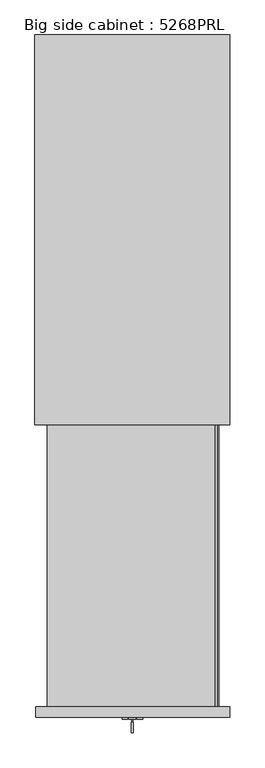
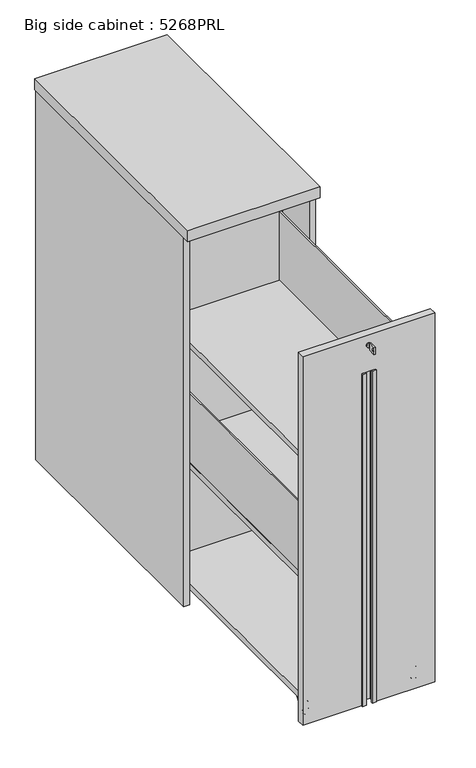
"""IFC4 building model written with IfcOpenShell, lengths in millimetres: furniture geometry, Big side cabinet : 5268PRL."""

from ifc_helpers import new_model, si_unit, point, frame, frame_2d, origin, origin_with_axes, place, context, project, spatial, polyline, circle_curve, ellipse_curve, trimmed, segment, composite_curve, outline, extrude, source, transform, mapped, element, save
from ifc_brep_helpers import plane_surface, cylinder_surface, revolved_surface, advanced_brep


def big_side_cabinet_5268prl_ba8d7ef6(model_context):
    return source(origin(), model_context, "Body", "SolidModel", [
        extrude(outline(polyline([(1.5783188, 20.1617145), (1.5783188, 10.1617145), (-8.4216812, 10.1617145), (-8.4216812, 20.1617145), (1.5783188, 20.1617145)])), origin_with_axes(), (0.0, 0.0, 1.0), 10.0),
        extrude(outline(polyline([(180.5000002, 798.0), (198.5, 798.0), (198.5, 22.9999769), (180.5000002, 22.9999769), (180.5000002, 798.0)])), frame((0.0, 0.0, 5.0), z_axis=(0.0, 0.0, 1.0), x_axis=(1.0, 0.0, 0.0)), (0.0, 0.0, 1.0), 1180.0),
        extrude(outline(polyline([(-180.5000002, 778.4999997), (-180.5000002, 790.9999997), (180.5000002, 790.9999997), (180.5000002, 778.4999997), (-180.5000002, 778.4999997)])), frame((0.0, 0.0, 5.0), z_axis=(0.0, 0.0, 1.0), x_axis=(1.0, 0.0, 0.0)), (0.0, 0.0, 1.0), 1180.0),
        extrude(outline(polyline([(-180.5000002, 798.0), (-180.5000002, 22.9999769), (-198.5, 22.9999769), (-198.5, 798.0), (-180.5000002, 798.0)])), frame((0.0, 0.0, 5.0), z_axis=(0.0, 0.0, 1.0), x_axis=(1.0, 0.0, 0.0)), (0.0, 0.0, 1.0), 1180.0),
        extrude(outline(polyline([(180.5000002, 70.0000151), (-180.5000002, 70.0000151), (-180.5000002, 738.5000021), (180.5000002, 738.5000021), (180.5000002, 70.0000151)])), frame((0.0, 0.0, 20.0583505), z_axis=(0.0, 0.0, 1.0), x_axis=(1.0, 0.0, 0.0)), (0.0, 0.0, 1.0), 17.9999982),
        extrude(outline(polyline([(200.0, 0.0), (-200.0, 0.0), (-200.0, 800.0), (200.0, 800.0), (200.0, 0.0)])), frame((0.0, 0.0, 1185.0), z_axis=(0.0, 0.0, 1.0), x_axis=(1.0, 0.0, 0.0)), (0.0, 0.0, 1.0), 35.0),
        extrude(outline(composite_curve([segment(trimmed(circle_curve(frame_2d((-160.5000002, 706.0000021)), 20.0), [point((-180.5000002, 706.0000021))], [point((-140.5000002, 706.0000021))], False, "CARTESIAN"), True, "CONTINUOUS"), segment(trimmed(circle_curve(frame_2d((-160.5000002, 706.0000021)), 20.0), [point((-140.5000002, 706.0000021))], [point((-180.5000002, 706.0000021))], False, "CARTESIAN"), True, "CONTINUOUS")], self_intersect=False)), origin_with_axes(), (0.0, 0.0, 1.0), 19.0539492),
        extrude(outline(composite_curve([segment(trimmed(circle_curve(frame_2d((-160.5000002, 98.9999918)), 20.0), [point((-180.5000002, 98.9999918))], [point((-140.5000002, 98.9999918))], False, "CARTESIAN"), True, "CONTINUOUS"), segment(trimmed(circle_curve(frame_2d((-160.5000002, 98.9999918)), 20.0), [point((-140.5000002, 98.9999918))], [point((-180.5000002, 98.9999918))], False, "CARTESIAN"), True, "CONTINUOUS")], self_intersect=False)), origin_with_axes(), (0.0, 0.0, 1.0), 19.0539492),
        extrude(outline(composite_curve([segment(trimmed(circle_curve(frame_2d((160.5000002, 706.0000021)), 20.0), [point((140.5000002, 706.0000021))], [point((180.5000002, 706.0000021))], False, "CARTESIAN"), True, "CONTINUOUS"), segment(trimmed(circle_curve(frame_2d((160.5000002, 706.0000021)), 20.0), [point((180.5000002, 706.0000021))], [point((140.5000002, 706.0000021))], False, "CARTESIAN"), True, "CONTINUOUS")], self_intersect=False)), origin_with_axes(), (0.0, 0.0, 1.0), 19.0539492),
        extrude(outline(composite_curve([segment(trimmed(circle_curve(frame_2d((160.5000002, 98.9999918)), 20.0), [point((140.5000002, 98.9999918))], [point((180.5000002, 98.9999918))], False, "CARTESIAN"), True, "CONTINUOUS"), segment(trimmed(circle_curve(frame_2d((160.5000002, 98.9999918)), 20.0), [point((180.5000002, 98.9999918))], [point((140.5000002, 98.9999918))], False, "CARTESIAN"), True, "CONTINUOUS")], self_intersect=False)), origin_with_axes(), (0.0, 0.0, 1.0), 19.0539492),
        advanced_brep(
        [(155.997354, -548.0000393, 10.5), (158.25, -548.0000393, 12.752646), (158.25, -548.0000393, 29.247354), (155.997354, -548.0000393, 31.5), (155.997354, -548.0000393, 3.0456405), (155.997354, -548.0000393, 38.9543595), (159.0429945, -548.0000393, 0.0), (159.0429945, -548.0000393, 42.0), (162.5, -548.0000393, 0.0), (162.5, -548.0000393, 42.0), (162.5, -548.0000393, 16.75), (162.5, -548.0000393, 25.25), (158.25, -548.0000393, 16.75), (158.25, -548.0000393, 25.25)],
        [
            (0, 1),
            (1, 2, circle_curve(frame((158.25, -548.0000393, 21.0), z_axis=(1.0, 0.0, 0.0), x_axis=(0.0, 0.0, 1.0)), 8.247354)),
            (2, 3),
            (3, 0, circle_curve(frame((155.997354, -548.0000393, 21.0), z_axis=(-1.0, 0.0, 0.0), x_axis=(0.0, 0.0, 1.0)), 10.5)),
            (2, 1, circle_curve(frame((158.25, -548.0000393, 21.0), z_axis=(1.0, 0.0, 0.0), x_axis=(0.0, 0.0, 1.0)), 8.247354)),
            (0, 3, circle_curve(frame((155.997354, -548.0000393, 21.0), z_axis=(-1.0, 0.0, 0.0), x_axis=(0.0, 0.0, 1.0)), 10.5)),
            (4, 0),
            (3, 5),
            (5, 4, circle_curve(frame((155.997354, -548.0000393, 21.0), z_axis=(-1.0, 0.0, 0.0), x_axis=(0.0, 0.0, 1.0)), 17.9543595)),
            (4, 5, circle_curve(frame((155.997354, -548.0000393, 21.0), z_axis=(-1.0, 0.0, 0.0), x_axis=(0.0, 0.0, 1.0)), 17.9543595)),
            (6, 4, circle_curve(frame((159.0429945, -548.0000393, 3.0456405), z_axis=(0.0, 1.0, 0.0), x_axis=(-1.0, 0.0, 0.0)), 3.0456405)),
            (5, 7, circle_curve(frame((159.0429945, -548.0000393, 38.9543595), z_axis=(0.0, 1.0, 0.0), x_axis=(-1.0, 0.0, 0.0)), 3.0456405)),
            (7, 6, circle_curve(frame((159.0429945, -548.0000393, 21.0), z_axis=(-1.0, 0.0, 0.0), x_axis=(0.0, 0.0, 1.0)), 21.0)),
            (6, 7, circle_curve(frame((159.0429945, -548.0000393, 21.0), z_axis=(-1.0, 0.0, 0.0), x_axis=(0.0, 0.0, 1.0)), 21.0)),
            (8, 6),
            (7, 9),
            (9, 8, circle_curve(frame((162.5, -548.0000393, 21.0), z_axis=(-1.0, 0.0, 0.0), x_axis=(0.0, 0.0, 1.0)), 21.0)),
            (8, 9, circle_curve(frame((162.5, -548.0000393, 21.0), z_axis=(-1.0, 0.0, 0.0), x_axis=(0.0, 0.0, 1.0)), 21.0)),
            (10, 8),
            (9, 11),
            (11, 10, circle_curve(frame((162.5, -548.0000393, 21.0), z_axis=(-1.0, 0.0, 0.0), x_axis=(0.0, 0.0, 1.0)), 4.25)),
            (10, 11, circle_curve(frame((162.5, -548.0000393, 21.0), z_axis=(-1.0, 0.0, 0.0), x_axis=(0.0, 0.0, 1.0)), 4.25)),
            (12, 10),
            (11, 13),
            (13, 12, circle_curve(frame((158.25, -548.0000393, 21.0), z_axis=(-1.0, 0.0, 0.0), x_axis=(0.0, 0.0, 1.0)), 4.25)),
            (12, 13, circle_curve(frame((158.25, -548.0000393, 21.0), z_axis=(-1.0, 0.0, 0.0), x_axis=(0.0, 0.0, 1.0)), 4.25)),
            (1, 12),
            (13, 2),
        ],
        [
            revolved_surface(polyline([(158.25, -548.0000393, 29.247354), (155.997354, -548.0000393, 31.5)]), (135.5019942, -548.0000393, 21.0), (1.0, 0.0, 0.0)),
            plane_surface(frame((155.997354, -548.0000393, 21.0), z_axis=(-1.0, 0.0, 0.0), x_axis=(0.0, 0.0, 1.0))),
            revolved_surface(trimmed(ellipse_curve(frame((159.0429945, -548.0000393, 38.9543595), z_axis=(0.0, 1.0, 0.0), x_axis=(-1.0, 0.0, 0.0)), 3.0456405, 3.0456405), [point((155.997354, -548.0000393, 38.9543595))], [point((159.0429945, -548.0000393, 42.0))], True, "CARTESIAN"), (135.5019942, -548.0000393, 21.0), (1.0, 0.0, 0.0)),
            cylinder_surface(frame((135.5019942, -548.0000393, 21.0), z_axis=(1.0, 0.0, 0.0), x_axis=(0.0, 0.0, 1.0)), 21.0),
            plane_surface(frame((162.5, -548.0000393, 21.0), z_axis=(1.0, 0.0, 0.0), x_axis=(0.0, 0.0, 1.0))),
            revolved_surface(polyline([(162.5, -548.0000393, 25.25), (158.25, -548.0000393, 25.25)]), (135.5019942, -548.0000393, 21.0), (1.0, 0.0, 0.0)),
            plane_surface(frame((158.25, -548.0000393, 21.0), z_axis=(-1.0, 0.0, 0.0), x_axis=(0.0, 0.0, 1.0))),
        ],
        [
            (0, [[1, 2, 3, 4]]),
            (0, [[-3, 5, -1, 6]]),
            (1, [[7, -4, 8, 9]]),
            (1, [[-8, -6, -7, 10]]),
            (2, [[11, -9, 12, 13]]),
            (2, [[-12, -10, -11, 14]]),
            (3, [[15, -13, 16, 17]]),
            (3, [[-16, -14, -15, 18]]),
            (4, [[19, -17, 20, 21]]),
            (4, [[-20, -18, -19, 22]]),
            (5, [[23, -21, 24, 25]]),
            (5, [[-24, -22, -23, 26]]),
            (6, [[27, -25, 28, -2]]),
            (6, [[-28, -26, -27, -5]]),
        ],
    ),
        advanced_brep(
        [(174.351441, -548.0000393, 25.0), (174.351441, -548.0000393, 21.0), (174.351441, -548.0000393, 17.0), (169.8769483, -548.0000393, 17.0), (169.8769483, -548.0000393, 25.0)],
        [
            (0, 1),
            (1, 2),
            (2, 0, circle_curve(frame((174.351441, -548.0000393, 21.0), z_axis=(1.0, 0.0, 0.0), x_axis=(0.0, 0.0, -1.0)), 4.0)),
            (0, 2, circle_curve(frame((174.351441, -548.0000393, 21.0), z_axis=(1.0, 0.0, 0.0), x_axis=(0.0, 0.0, -1.0)), 4.0)),
            (2, 3),
            (3, 4, circle_curve(frame((169.8769483, -548.0000393, 21.0), z_axis=(1.0, 0.0, 0.0), x_axis=(0.0, 0.0, -1.0)), 4.0)),
            (4, 0),
            (4, 3, circle_curve(frame((169.8769483, -548.0000393, 21.0), z_axis=(1.0, 0.0, 0.0), x_axis=(0.0, 0.0, -1.0)), 4.0)),
        ],
        [
            plane_surface(frame((174.351441, -548.0000393, 21.0), z_axis=(1.0, 0.0, 0.0), x_axis=(0.0, 0.0, -1.0))),
            cylinder_surface(frame((142.5, -548.0000393, 21.0), z_axis=(-1.0, 0.0, 0.0), x_axis=(0.0, 0.0, -1.0)), 4.0),
            plane_surface(frame((169.8769483, -572.0000393, 46.0), z_axis=(-1.0, 0.0, 0.0), x_axis=(0.0, 1.0, 0.0))),
        ],
        [
            (0, [[1, 2, 3]]),
            (0, [[-1, 4, -2]]),
            (1, [[5, 6, 7, -3]]),
            (1, [[-7, 8, -5, -4]]),
            (2, [[-8, -6]]),
        ],
    ),
        advanced_brep(
        [(150.5708052, -548.0000393, 25.0), (155.0, -548.0000393, 25.0), (155.0, -548.0000393, 17.0), (150.5708052, -548.0000393, 17.0), (150.5708052, -548.0000393, 21.0)],
        [
            (0, 1),
            (1, 2, circle_curve(frame((155.0, -548.0000393, 21.0), z_axis=(-1.0, 0.0, 0.0), x_axis=(0.0, 0.0, -1.0)), 4.0)),
            (2, 3),
            (3, 0, circle_curve(frame((150.5708052, -548.0000393, 21.0), z_axis=(1.0, 0.0, 0.0), x_axis=(0.0, 0.0, -1.0)), 4.0)),
            (2, 1, circle_curve(frame((155.0, -548.0000393, 21.0), z_axis=(-1.0, 0.0, 0.0), x_axis=(0.0, 0.0, -1.0)), 4.0)),
            (0, 3, circle_curve(frame((150.5708052, -548.0000393, 21.0), z_axis=(1.0, 0.0, 0.0), x_axis=(0.0, 0.0, -1.0)), 4.0)),
            (3, 4),
            (4, 0),
        ],
        [
            cylinder_surface(frame((142.5, -548.0000393, 21.0), z_axis=(-1.0, 0.0, 0.0), x_axis=(0.0, 0.0, -1.0)), 4.0),
            plane_surface(frame((150.5708052, -548.0000393, 21.0), z_axis=(-1.0, 0.0, 0.0), x_axis=(0.0, 0.0, -1.0))),
            plane_surface(frame((155.0, -572.0000393, 0.0), z_axis=(1.0, 0.0, 0.0), x_axis=(0.0, 1.0, 0.0))),
        ],
        [
            (0, [[1, 2, 3, 4]]),
            (0, [[-3, 5, -1, 6]]),
            (1, [[7, 8, -4]]),
            (1, [[-8, -7, -6]]),
            (2, [[-5, -2]]),
        ],
    ),
        advanced_brep(
        [(166.75, -548.0000393, 12.752646), (169.002646, -548.0000393, 10.5), (169.002646, -548.0000393, 31.5), (166.75, -548.0000393, 29.247354), (169.002646, -548.0000393, 3.0456405), (169.002646, -548.0000393, 38.9543595), (165.9570055, -548.0000393, 0.0), (165.9570055, -548.0000393, 42.0), (162.5, -548.0000393, 0.0), (162.5, -548.0000393, 42.0), (162.5, -548.0000393, 21.0), (166.75, -548.0000393, 21.0)],
        [
            (0, 1),
            (1, 2, circle_curve(frame((169.002646, -548.0000393, 21.0), z_axis=(1.0, 0.0, 0.0), x_axis=(0.0, 0.0, 1.0)), 10.5)),
            (2, 3),
            (3, 0, circle_curve(frame((166.75, -548.0000393, 21.0), z_axis=(-1.0, 0.0, 0.0), x_axis=(0.0, 0.0, 1.0)), 8.247354)),
            (2, 1, circle_curve(frame((169.002646, -548.0000393, 21.0), z_axis=(1.0, 0.0, 0.0), x_axis=(0.0, 0.0, 1.0)), 10.5)),
            (0, 3, circle_curve(frame((166.75, -548.0000393, 21.0), z_axis=(-1.0, 0.0, 0.0), x_axis=(0.0, 0.0, 1.0)), 8.247354)),
            (1, 4),
            (4, 5, circle_curve(frame((169.002646, -548.0000393, 21.0), z_axis=(1.0, 0.0, 0.0), x_axis=(0.0, 0.0, 1.0)), 17.9543595)),
            (5, 2),
            (5, 4, circle_curve(frame((169.002646, -548.0000393, 21.0), z_axis=(1.0, 0.0, 0.0), x_axis=(0.0, 0.0, 1.0)), 17.9543595)),
            (4, 6, circle_curve(frame((165.9570055, -548.0000393, 3.0456405), z_axis=(0.0, 1.0, 0.0), x_axis=(1.0, 0.0, 0.0)), 3.0456405)),
            (6, 7, circle_curve(frame((165.9570055, -548.0000393, 21.0), z_axis=(1.0, 0.0, 0.0), x_axis=(0.0, 0.0, 1.0)), 21.0)),
            (7, 5, circle_curve(frame((165.9570055, -548.0000393, 38.9543595), z_axis=(0.0, 1.0, 0.0), x_axis=(1.0, 0.0, 0.0)), 3.0456405)),
            (7, 6, circle_curve(frame((165.9570055, -548.0000393, 21.0), z_axis=(1.0, 0.0, 0.0), x_axis=(0.0, 0.0, 1.0)), 21.0)),
            (6, 8),
            (8, 9, circle_curve(frame((162.5, -548.0000393, 21.0), z_axis=(1.0, 0.0, 0.0), x_axis=(0.0, 0.0, 1.0)), 21.0)),
            (9, 7),
            (9, 8, circle_curve(frame((162.5, -548.0000393, 21.0), z_axis=(1.0, 0.0, 0.0), x_axis=(0.0, 0.0, 1.0)), 21.0)),
            (8, 10),
            (10, 9),
            (11, 0),
            (3, 11),
        ],
        [
            revolved_surface(polyline([(169.002646, -548.0000393, 31.5), (166.75, -548.0000393, 29.247354)]), (189.4980058, -548.0000393, 21.0), (1.0, 0.0, 0.0)),
            plane_surface(frame((169.002646, -548.0000393, 21.0), z_axis=(1.0, 0.0, 0.0), x_axis=(0.0, 0.0, 1.0))),
            revolved_surface(trimmed(ellipse_curve(frame((165.9570055, -548.0000393, 38.9543595), z_axis=(0.0, 1.0, 0.0), x_axis=(1.0, 0.0, 0.0)), 3.0456405, 3.0456405), [point((165.9570055, -548.0000393, 42.0))], [point((169.002646, -548.0000393, 38.9543595))], True, "CARTESIAN"), (189.4980058, -548.0000393, 21.0), (1.0, 0.0, 0.0)),
            cylinder_surface(frame((189.4980058, -548.0000393, 21.0), z_axis=(1.0, 0.0, 0.0), x_axis=(0.0, 0.0, 1.0)), 21.0),
            plane_surface(frame((162.5, -548.0000393, 21.0), z_axis=(-1.0, 0.0, 0.0), x_axis=(0.0, 0.0, 1.0))),
            plane_surface(frame((166.75, -548.0000393, 21.0), z_axis=(1.0, 0.0, 0.0), x_axis=(0.0, 0.0, 1.0))),
        ],
        [
            (0, [[1, 2, 3, 4]]),
            (0, [[-3, 5, -1, 6]]),
            (1, [[7, 8, 9, -2]]),
            (1, [[-9, 10, -7, -5]]),
            (2, [[11, 12, 13, -8]]),
            (2, [[-13, 14, -11, -10]]),
            (3, [[15, 16, 17, -12]]),
            (3, [[-17, 18, -15, -14]]),
            (4, [[19, 20, -16]]),
            (4, [[-20, -19, -18]]),
            (5, [[21, -4, 22]]),
            (5, [[-22, -6, -21]]),
        ],
    ),
        advanced_brep(
        [(152.5, -524.0000393, 48.0), (152.5, -524.0000393, 42.0), (152.5, -540.0000393, 21.0), (152.5, -556.0000393, 21.0), (152.5, -572.0000393, 42.0), (152.5, -572.0000393, 48.0), (172.5, -524.0000393, 48.0), (172.5, -572.0000393, 48.0), (172.5, -572.0000393, 42.0), (172.5, -556.0000393, 21.0), (172.5, -540.0000393, 21.0), (172.5, -524.0000393, 42.0), (169.8769483, -556.0000393, 21.0), (169.8769483, -540.0000393, 21.0), (155.0, -540.0000393, 21.0), (155.0, -556.0000393, 21.0), (155.0, -572.0000393, 42.0), (155.0, -572.0000393, 46.0), (169.8769483, -572.0000393, 46.0), (169.8769483, -572.0000393, 42.0), (169.8769483, -524.0000393, 42.0), (169.8769483, -524.0000393, 46.0), (155.0, -524.0000393, 46.0), (155.0, -524.0000393, 42.0)],
        [
            (0, 1),
            (1, 2),
            (2, 3, circle_curve(frame((152.5, -548.0000393, 21.0), z_axis=(-1.0, 0.0, 0.0), x_axis=(0.0, -1.0, 0.0)), 8.0)),
            (3, 4),
            (4, 5),
            (5, 0),
            (6, 7),
            (7, 8),
            (8, 9),
            (9, 10, circle_curve(frame((172.5, -548.0000393, 21.0), z_axis=(1.0, 0.0, 0.0), x_axis=(0.0, -1.0, 0.0)), 8.0)),
            (10, 11),
            (11, 6),
            (5, 7),
            (6, 0),
            (9, 12),
            (12, 13, circle_curve(frame((169.8769483, -548.0000393, 21.0), z_axis=(1.0, 0.0, 0.0), x_axis=(0.0, -1.0, 0.0)), 8.0)),
            (13, 10),
            (2, 14),
            (14, 15, circle_curve(frame((155.0, -548.0000393, 21.0), z_axis=(-1.0, 0.0, 0.0), x_axis=(0.0, -1.0, 0.0)), 8.0)),
            (15, 3),
            (4, 16),
            (16, 17),
            (17, 18),
            (18, 19),
            (19, 8),
            (11, 20),
            (20, 21),
            (21, 22),
            (22, 23),
            (23, 1),
            (17, 22),
            (21, 18),
            (16, 15),
            (14, 23),
            (20, 13),
            (12, 19),
        ],
        [
            plane_surface(frame((152.5, -572.0000393, 48.0), z_axis=(-1.0, 0.0, 0.0), x_axis=(0.0, -1.0, 0.0))),
            plane_surface(frame((172.5, -572.0000393, 48.0), z_axis=(1.0, 0.0, 0.0), x_axis=(0.0, 1.0, 0.0))),
            plane_surface(frame((152.5, -524.0000393, 48.0), z_axis=(0.0, 0.0, 1.0), x_axis=(1.0, 0.0, 0.0))),
            cylinder_surface(frame((172.5, -548.0000393, 21.0), z_axis=(-1.0, 0.0, 0.0), x_axis=(0.0, -1.0, 0.0)), 8.0),
            plane_surface(frame((152.5, -572.0000393, 48.0), z_axis=(0.0, -1.0, 0.0), x_axis=(1.0, 0.0, 0.0))),
            plane_surface(frame((152.5, -524.0000393, 42.0), z_axis=(0.0, 1.0, 0.0), x_axis=(1.0, 0.0, 0.0))),
            plane_surface(frame((155.0, -572.0000393, 46.0), z_axis=(0.0, 0.0, -1.0), x_axis=(0.0, 1.0, 0.0))),
            plane_surface(frame((155.0, -572.0000393, 0.0), z_axis=(1.0, 0.0, 0.0), x_axis=(0.0, 1.0, 0.0))),
            plane_surface(frame((169.8769483, -572.0000393, 46.0), z_axis=(-1.0, 0.0, 0.0), x_axis=(0.0, 1.0, 0.0))),
            plane_surface(frame((152.5, -572.0000393, 42.0), z_axis=(0.0, -0.7954317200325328, -0.6060432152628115), x_axis=(1.0, 0.0, 0.0))),
            plane_surface(frame((152.5, -540.0000393, 21.0), z_axis=(0.0, 0.7954317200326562, -0.6060432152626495), x_axis=(1.0, 0.0, 0.0))),
        ],
        [
            (0, [[1, 2, 3, 4, 5, 6]]),
            (1, [[7, 8, 9, 10, 11, 12]]),
            (2, [[13, -7, 14, -6]]),
            (3, [[15, 16, 17, -10]]),
            (3, [[18, 19, 20, -3]]),
            (4, [[21, 22, 23, 24, 25, -8, -13, -5]]),
            (5, [[-14, -12, 26, 27, 28, 29, 30, -1]]),
            (6, [[-23, 31, -28, 32]]),
            (7, [[-22, 33, -19, 34, -29, -31]]),
            (8, [[-27, 35, -16, 36, -24, -32]]),
            (9, [[-20, -33, -21, -4]]),
            (9, [[-25, -36, -15, -9]]),
            (10, [[-30, -34, -18, -2]]),
            (10, [[-17, -35, -26, -11]]),
        ],
    ),
        extrude(outline(polyline([(-632.0000046, 1139.014113), (-632.0000046, 1161.0), (-610.0000046, 1161.0), (-610.0000046, 1139.014113), (-632.0000046, 1139.014113)]), holes=[composite_curve([segment(trimmed(circle_curve(frame_2d((-625.7500046, 1150.0070565)), 3.2230706), [point((-625.7500046, 1153.2301271))], [point((-625.7500046, 1146.7839859))], True, "CARTESIAN"), True, "CONTINUOUS"), segment(trimmed(circle_curve(frame_2d((-625.7500046, 1150.0070565)), 3.2230706), [point((-625.7500046, 1146.7839859))], [point((-625.7500046, 1153.2301271))], True, "CARTESIAN"), True, "CONTINUOUS")], self_intersect=False)]), frame((-2.0, 0.0, 0.0), z_axis=(1.0, 0.0, 0.0), x_axis=(0.0, 1.0, 0.0)), (0.0, 0.0, 1.0), 4.0416064),
        extrude(outline(polyline([(1.0416064, -610.0000046), (-1.0, -610.0000046), (-1.0, -604.0000046), (1.0416064, -604.0000046), (1.0416064, -610.0000046)])), frame((0.0, 0.0, 1146.014113), z_axis=(0.0, 0.0, 1.0), x_axis=(1.0, 0.0, 0.0)), (0.0, 0.0, 1.0), 7.985887),
        extrude(outline(composite_curve([segment(trimmed(circle_curve(frame_2d((1150.0, 0.0)), 7.0), [point((1150.0, -7.0))], [point((1150.0, 7.0))], False, "CARTESIAN"), True, "CONTINUOUS"), segment(trimmed(circle_curve(frame_2d((1150.0, 0.0)), 7.0), [point((1150.0, 7.0))], [point((1150.0, -7.0))], False, "CARTESIAN"), True, "CONTINUOUS")], self_intersect=False)), frame((0.0, -604.0000046, 0.0), z_axis=(0.0, 1.0, 0.0), x_axis=(0.0, 0.0, 1.0)), (0.0, 0.0, 1.0), 4.0),
        extrude(outline(polyline([(1182.0, 200.0000015), (1182.0, -198.5000015), (5.0, -198.5000015), (5.0, -17.7500067), (1065.0, -17.7500067), (1065.0, 17.7500067), (5.0, 17.7500067), (5.0, 200.0000015), (1182.0, 200.0000015)])), frame((0.0, -600.0000046, 0.0), z_axis=(0.0, 1.0, 0.0), x_axis=(0.0, 0.0, 1.0)), (0.0, 0.0, 1.0), 21.9999653),
        extrude(outline(polyline([(-21.2499929, -604.2058707), (-21.2499929, -600.0000046), (-17.7500067, -600.0000046), (-17.7500067, -578.0000393), (17.7500067, -578.0000393), (17.7500067, -600.0000046), (21.2499929, -600.0000046), (21.2499929, -604.2058707), (9.2499986, -604.2058707), (9.2499986, -598.4780496), (15.9519183, -595.3528931), (15.9519183, -580.3528931), (-15.9519183, -580.3528931), (-15.9519183, -595.3528931), (-9.2499986, -598.4780496), (-9.2499986, -604.2058707), (-21.2499929, -604.2058707)])), frame((0.0, 0.0, 5.0), z_axis=(0.0, 0.0, 1.0), x_axis=(1.0, 0.0, 0.0)), (0.0, 0.0, 1.0), 1060.0),
        extrude(outline(polyline([(169.8004833, -578.0000046), (169.8004833, 160.5000143), (173.7499883, 160.5000143), (173.7499883, -578.0000046), (169.8004833, -578.0000046)])), frame((0.0, 0.0, 836.0), z_axis=(0.0, 0.0, 1.0), x_axis=(1.0, 0.0, 0.0)), (0.0, 0.0, 1.0), 220.0),
        extrude(outline(polyline([(-169.8004833, -578.0000046), (-173.7499883, -578.0000046), (-173.7499883, 160.5000143), (-169.8004833, 160.5000143), (-169.8004833, -578.0000046)])), frame((0.0, 0.0, 451.0), z_axis=(0.0, 0.0, 1.0), x_axis=(1.0, 0.0, 0.0)), (0.0, 0.0, 1.0), 220.0),
        extrude(outline(polyline([(169.8004833, -578.0000046), (169.8004833, 160.5000143), (173.7499883, 160.5000143), (173.7499883, -578.0000046), (169.8004833, -578.0000046)])), frame((0.0, 0.0, 66.0), z_axis=(0.0, 0.0, 1.0), x_axis=(1.0, 0.0, 0.0)), (0.0, 0.0, 1.0), 220.0),
        advanced_brep(
        [(-155.997354, -548.0000393, 10.5), (-155.997354, -548.0000393, 31.5), (-158.25, -548.0000393, 29.247354), (-158.25, -548.0000393, 12.752646), (-155.997354, -548.0000393, 3.0456405), (-155.997354, -548.0000393, 38.9543595), (-159.0429945, -548.0000393, 0.0), (-159.0429945, -548.0000393, 42.0), (-162.5, -548.0000393, 0.0), (-162.5, -548.0000393, 42.0), (-162.5, -548.0000393, 16.75), (-162.5, -548.0000393, 25.25), (-158.25, -548.0000393, 16.75), (-158.25, -548.0000393, 25.25)],
        [
            (0, 1, circle_curve(frame((-155.997354, -548.0000393, 21.0), z_axis=(1.0, 0.0, 0.0), x_axis=(0.0, 0.0, 1.0)), 10.5)),
            (1, 2),
            (2, 3, circle_curve(frame((-158.25, -548.0000393, 21.0), z_axis=(-1.0, 0.0, 0.0), x_axis=(0.0, 0.0, 1.0)), 8.247354)),
            (3, 0),
            (1, 0, circle_curve(frame((-155.997354, -548.0000393, 21.0), z_axis=(1.0, 0.0, 0.0), x_axis=(0.0, 0.0, 1.0)), 10.5)),
            (3, 2, circle_curve(frame((-158.25, -548.0000393, 21.0), z_axis=(-1.0, 0.0, 0.0), x_axis=(0.0, 0.0, 1.0)), 8.247354)),
            (4, 5, circle_curve(frame((-155.997354, -548.0000393, 21.0), z_axis=(1.0, 0.0, 0.0), x_axis=(0.0, 0.0, 1.0)), 17.9543595)),
            (5, 1),
            (0, 4),
            (5, 4, circle_curve(frame((-155.997354, -548.0000393, 21.0), z_axis=(1.0, 0.0, 0.0), x_axis=(0.0, 0.0, 1.0)), 17.9543595)),
            (6, 7, circle_curve(frame((-159.0429945, -548.0000393, 21.0), z_axis=(1.0, 0.0, 0.0), x_axis=(0.0, 0.0, 1.0)), 21.0)),
            (7, 5, circle_curve(frame((-159.0429945, -548.0000393, 38.9543595), z_axis=(0.0, 1.0, 0.0), x_axis=(1.0, 0.0, 0.0)), 3.0456405)),
            (4, 6, circle_curve(frame((-159.0429945, -548.0000393, 3.0456405), z_axis=(0.0, 1.0, 0.0), x_axis=(1.0, 0.0, 0.0)), 3.0456405)),
            (7, 6, circle_curve(frame((-159.0429945, -548.0000393, 21.0), z_axis=(1.0, 0.0, 0.0), x_axis=(0.0, 0.0, 1.0)), 21.0)),
            (8, 9, circle_curve(frame((-162.5, -548.0000393, 21.0), z_axis=(1.0, 0.0, 0.0), x_axis=(0.0, 0.0, 1.0)), 21.0)),
            (9, 7),
            (6, 8),
            (9, 8, circle_curve(frame((-162.5, -548.0000393, 21.0), z_axis=(1.0, 0.0, 0.0), x_axis=(0.0, 0.0, 1.0)), 21.0)),
            (10, 11, circle_curve(frame((-162.5, -548.0000393, 21.0), z_axis=(1.0, 0.0, 0.0), x_axis=(0.0, 0.0, 1.0)), 4.25)),
            (11, 9),
            (8, 10),
            (11, 10, circle_curve(frame((-162.5, -548.0000393, 21.0), z_axis=(1.0, 0.0, 0.0), x_axis=(0.0, 0.0, 1.0)), 4.25)),
            (12, 13, circle_curve(frame((-158.25, -548.0000393, 21.0), z_axis=(1.0, 0.0, 0.0), x_axis=(0.0, 0.0, 1.0)), 4.25)),
            (13, 11),
            (10, 12),
            (13, 12, circle_curve(frame((-158.25, -548.0000393, 21.0), z_axis=(1.0, 0.0, 0.0), x_axis=(0.0, 0.0, 1.0)), 4.25)),
            (2, 13),
            (12, 3),
        ],
        [
            revolved_surface(polyline([(-158.25, -548.0000393, 29.247354), (-155.997354, -548.0000393, 31.5)]), (-135.5019942, -548.0000393, 21.0), (-1.0, 0.0, 0.0)),
            plane_surface(frame((-155.997354, -548.0000393, 21.0), z_axis=(1.0, 0.0, 0.0), x_axis=(0.0, 0.0, 1.0))),
            revolved_surface(trimmed(ellipse_curve(frame((-159.0429945, -548.0000393, 38.9543595), z_axis=(0.0, -1.0, 0.0), x_axis=(1.0, 0.0, 0.0)), 3.0456405, 3.0456405), [point((-155.997354, -548.0000393, 38.9543595))], [point((-159.0429945, -548.0000393, 42.0))], True, "CARTESIAN"), (-135.5019942, -548.0000393, 21.0), (-1.0, 0.0, 0.0)),
            cylinder_surface(frame((-135.5019942, -548.0000393, 21.0), z_axis=(-1.0, 0.0, 0.0), x_axis=(0.0, 0.0, 1.0)), 21.0),
            plane_surface(frame((-162.5, -548.0000393, 21.0), z_axis=(-1.0, 0.0, 0.0), x_axis=(0.0, 0.0, 1.0))),
            revolved_surface(polyline([(-162.5, -548.0000393, 25.25), (-158.25, -548.0000393, 25.25)]), (-135.5019942, -548.0000393, 21.0), (-1.0, 0.0, 0.0)),
            plane_surface(frame((-158.25, -548.0000393, 21.0), z_axis=(1.0, 0.0, 0.0), x_axis=(0.0, 0.0, 1.0))),
        ],
        [
            (0, [[1, 2, 3, 4]]),
            (0, [[5, -4, 6, -2]]),
            (1, [[7, 8, -1, 9]]),
            (1, [[10, -9, -5, -8]]),
            (2, [[11, 12, -7, 13]]),
            (2, [[14, -13, -10, -12]]),
            (3, [[15, 16, -11, 17]]),
            (3, [[18, -17, -14, -16]]),
            (4, [[19, 20, -15, 21]]),
            (4, [[22, -21, -18, -20]]),
            (5, [[23, 24, -19, 25]]),
            (5, [[26, -25, -22, -24]]),
            (6, [[-3, 27, -23, 28]]),
            (6, [[-6, -28, -26, -27]]),
        ],
    ),
        advanced_brep(
        [(-174.351441, -548.0000393, 25.0), (-174.351441, -548.0000393, 17.0), (-174.351441, -548.0000393, 21.0), (-169.8769483, -548.0000393, 25.0), (-169.8769483, -548.0000393, 17.0)],
        [
            (0, 1, circle_curve(frame((-174.351441, -548.0000393, 21.0), z_axis=(-1.0, 0.0, 0.0), x_axis=(0.0, 0.0, -1.0)), 4.0)),
            (1, 2),
            (2, 0),
            (1, 0, circle_curve(frame((-174.351441, -548.0000393, 21.0), z_axis=(-1.0, 0.0, 0.0), x_axis=(0.0, 0.0, -1.0)), 4.0)),
            (0, 3),
            (3, 4, circle_curve(frame((-169.8769483, -548.0000393, 21.0), z_axis=(-1.0, 0.0, 0.0), x_axis=(0.0, 0.0, -1.0)), 4.0)),
            (4, 1),
            (4, 3, circle_curve(frame((-169.8769483, -548.0000393, 21.0), z_axis=(-1.0, 0.0, 0.0), x_axis=(0.0, 0.0, -1.0)), 4.0)),
        ],
        [
            plane_surface(frame((-174.351441, -548.0000393, 21.0), z_axis=(-1.0, 0.0, 0.0), x_axis=(0.0, 0.0, -1.0))),
            cylinder_surface(frame((-142.5, -548.0000393, 21.0), z_axis=(1.0, 0.0, 0.0), x_axis=(0.0, 0.0, -1.0)), 4.0),
            plane_surface(frame((-169.8769483, -572.0000393, 46.0), z_axis=(1.0, 0.0, 0.0), x_axis=(0.0, 1.0, 0.0))),
        ],
        [
            (0, [[1, 2, 3]]),
            (0, [[-2, 4, -3]]),
            (1, [[-1, 5, 6, 7]]),
            (1, [[-4, -7, 8, -5]]),
            (2, [[-6, -8]]),
        ],
    ),
        advanced_brep(
        [(-150.5708052, -548.0000393, 25.0), (-150.5708052, -548.0000393, 17.0), (-155.0, -548.0000393, 17.0), (-155.0, -548.0000393, 25.0), (-150.5708052, -548.0000393, 21.0)],
        [
            (0, 1, circle_curve(frame((-150.5708052, -548.0000393, 21.0), z_axis=(-1.0, 0.0, 0.0), x_axis=(0.0, 0.0, -1.0)), 4.0)),
            (1, 2),
            (2, 3, circle_curve(frame((-155.0, -548.0000393, 21.0), z_axis=(1.0, 0.0, 0.0), x_axis=(0.0, 0.0, -1.0)), 4.0)),
            (3, 0),
            (1, 0, circle_curve(frame((-150.5708052, -548.0000393, 21.0), z_axis=(-1.0, 0.0, 0.0), x_axis=(0.0, 0.0, -1.0)), 4.0)),
            (3, 2, circle_curve(frame((-155.0, -548.0000393, 21.0), z_axis=(1.0, 0.0, 0.0), x_axis=(0.0, 0.0, -1.0)), 4.0)),
            (0, 4),
            (4, 1),
        ],
        [
            cylinder_surface(frame((-142.5, -548.0000393, 21.0), z_axis=(1.0, 0.0, 0.0), x_axis=(0.0, 0.0, -1.0)), 4.0),
            plane_surface(frame((-150.5708052, -548.0000393, 21.0), z_axis=(1.0, 0.0, 0.0), x_axis=(0.0, 0.0, -1.0))),
            plane_surface(frame((-155.0, -572.0000393, 0.0), z_axis=(-1.0, 0.0, 0.0), x_axis=(0.0, 1.0, 0.0))),
        ],
        [
            (0, [[1, 2, 3, 4]]),
            (0, [[5, -4, 6, -2]]),
            (1, [[-1, 7, 8]]),
            (1, [[-5, -8, -7]]),
            (2, [[-3, -6]]),
        ],
    ),
        advanced_brep(
        [(-166.75, -548.0000393, 12.752646), (-166.75, -548.0000393, 29.247354), (-169.002646, -548.0000393, 31.5), (-169.002646, -548.0000393, 10.5), (-169.002646, -548.0000393, 38.9543595), (-169.002646, -548.0000393, 3.0456405), (-165.9570055, -548.0000393, 42.0), (-165.9570055, -548.0000393, 0.0), (-162.5, -548.0000393, 42.0), (-162.5, -548.0000393, 0.0), (-162.5, -548.0000393, 21.0), (-166.75, -548.0000393, 21.0)],
        [
            (0, 1, circle_curve(frame((-166.75, -548.0000393, 21.0), z_axis=(1.0, 0.0, 0.0), x_axis=(0.0, 0.0, 1.0)), 8.247354)),
            (1, 2),
            (2, 3, circle_curve(frame((-169.002646, -548.0000393, 21.0), z_axis=(-1.0, 0.0, 0.0), x_axis=(0.0, 0.0, 1.0)), 10.5)),
            (3, 0),
            (1, 0, circle_curve(frame((-166.75, -548.0000393, 21.0), z_axis=(1.0, 0.0, 0.0), x_axis=(0.0, 0.0, 1.0)), 8.247354)),
            (3, 2, circle_curve(frame((-169.002646, -548.0000393, 21.0), z_axis=(-1.0, 0.0, 0.0), x_axis=(0.0, 0.0, 1.0)), 10.5)),
            (2, 4),
            (4, 5, circle_curve(frame((-169.002646, -548.0000393, 21.0), z_axis=(-1.0, 0.0, 0.0), x_axis=(0.0, 0.0, 1.0)), 17.9543595)),
            (5, 3),
            (5, 4, circle_curve(frame((-169.002646, -548.0000393, 21.0), z_axis=(-1.0, 0.0, 0.0), x_axis=(0.0, 0.0, 1.0)), 17.9543595)),
            (4, 6, circle_curve(frame((-165.9570055, -548.0000393, 38.9543595), z_axis=(0.0, 1.0, 0.0), x_axis=(-1.0, 0.0, 0.0)), 3.0456405)),
            (6, 7, circle_curve(frame((-165.9570055, -548.0000393, 21.0), z_axis=(-1.0, 0.0, 0.0), x_axis=(0.0, 0.0, 1.0)), 21.0)),
            (7, 5, circle_curve(frame((-165.9570055, -548.0000393, 3.0456405), z_axis=(0.0, 1.0, 0.0), x_axis=(-1.0, 0.0, 0.0)), 3.0456405)),
            (7, 6, circle_curve(frame((-165.9570055, -548.0000393, 21.0), z_axis=(-1.0, 0.0, 0.0), x_axis=(0.0, 0.0, 1.0)), 21.0)),
            (6, 8),
            (8, 9, circle_curve(frame((-162.5, -548.0000393, 21.0), z_axis=(-1.0, 0.0, 0.0), x_axis=(0.0, 0.0, 1.0)), 21.0)),
            (9, 7),
            (9, 8, circle_curve(frame((-162.5, -548.0000393, 21.0), z_axis=(-1.0, 0.0, 0.0), x_axis=(0.0, 0.0, 1.0)), 21.0)),
            (8, 10),
            (10, 9),
            (11, 1),
            (0, 11),
        ],
        [
            revolved_surface(polyline([(-169.002646, -548.0000393, 31.5), (-166.75, -548.0000393, 29.247354)]), (-189.4980058, -548.0000393, 21.0), (-1.0, 0.0, 0.0)),
            plane_surface(frame((-169.002646, -548.0000393, 21.0), z_axis=(-1.0, 0.0, 0.0), x_axis=(0.0, 0.0, 1.0))),
            revolved_surface(trimmed(ellipse_curve(frame((-165.9570055, -548.0000393, 38.9543595), z_axis=(0.0, -1.0, 0.0), x_axis=(-1.0, 0.0, 0.0)), 3.0456405, 3.0456405), [point((-165.9570055, -548.0000393, 42.0))], [point((-169.002646, -548.0000393, 38.9543595))], True, "CARTESIAN"), (-189.4980058, -548.0000393, 21.0), (-1.0, 0.0, 0.0)),
            cylinder_surface(frame((-189.4980058, -548.0000393, 21.0), z_axis=(-1.0, 0.0, 0.0), x_axis=(0.0, 0.0, 1.0)), 21.0),
            plane_surface(frame((-162.5, -548.0000393, 21.0), z_axis=(1.0, 0.0, 0.0), x_axis=(0.0, 0.0, 1.0))),
            plane_surface(frame((-166.75, -548.0000393, 21.0), z_axis=(-1.0, 0.0, 0.0), x_axis=(0.0, 0.0, 1.0))),
        ],
        [
            (0, [[1, 2, 3, 4]]),
            (0, [[5, -4, 6, -2]]),
            (1, [[-3, 7, 8, 9]]),
            (1, [[-6, -9, 10, -7]]),
            (2, [[-8, 11, 12, 13]]),
            (2, [[-10, -13, 14, -11]]),
            (3, [[-12, 15, 16, 17]]),
            (3, [[-14, -17, 18, -15]]),
            (4, [[-16, 19, 20]]),
            (4, [[-18, -20, -19]]),
            (5, [[21, -1, 22]]),
            (5, [[-22, -5, -21]]),
        ],
    ),
        advanced_brep(
        [(-152.5, -524.0000393, 48.0), (-152.5, -572.0000393, 48.0), (-152.5, -572.0000393, 42.0), (-152.5, -556.0000393, 21.0), (-152.5, -540.0000393, 21.0), (-152.5, -524.0000393, 42.0), (-172.5, -524.0000393, 48.0), (-172.5, -524.0000393, 42.0), (-172.5, -540.0000393, 21.0), (-172.5, -556.0000393, 21.0), (-172.5, -572.0000393, 42.0), (-172.5, -572.0000393, 48.0), (-155.0, -556.0000393, 21.0), (-155.0, -540.0000393, 21.0), (-169.8769483, -540.0000393, 21.0), (-169.8769483, -556.0000393, 21.0), (-169.8769483, -572.0000393, 42.0), (-169.8769483, -572.0000393, 46.0), (-155.0, -572.0000393, 46.0), (-155.0, -572.0000393, 42.0), (-155.0, -524.0000393, 42.0), (-155.0, -524.0000393, 46.0), (-169.8769483, -524.0000393, 46.0), (-169.8769483, -524.0000393, 42.0)],
        [
            (0, 1),
            (1, 2),
            (2, 3),
            (3, 4, circle_curve(frame((-152.5, -548.0000393, 21.0), z_axis=(1.0, 0.0, 0.0), x_axis=(0.0, -1.0, 0.0)), 8.0)),
            (4, 5),
            (5, 0),
            (6, 7),
            (7, 8),
            (8, 9, circle_curve(frame((-172.5, -548.0000393, 21.0), z_axis=(-1.0, 0.0, 0.0), x_axis=(0.0, -1.0, 0.0)), 8.0)),
            (9, 10),
            (10, 11),
            (11, 6),
            (0, 6),
            (11, 1),
            (3, 12),
            (12, 13, circle_curve(frame((-155.0, -548.0000393, 21.0), z_axis=(1.0, 0.0, 0.0), x_axis=(0.0, -1.0, 0.0)), 8.0)),
            (13, 4),
            (8, 14),
            (14, 15, circle_curve(frame((-169.8769483, -548.0000393, 21.0), z_axis=(-1.0, 0.0, 0.0), x_axis=(0.0, -1.0, 0.0)), 8.0)),
            (15, 9),
            (10, 16),
            (16, 17),
            (17, 18),
            (18, 19),
            (19, 2),
            (5, 20),
            (20, 21),
            (21, 22),
            (22, 23),
            (23, 7),
            (17, 22),
            (21, 18),
            (20, 13),
            (12, 19),
            (16, 15),
            (14, 23),
        ],
        [
            plane_surface(frame((-152.5, -572.0000393, 48.0), z_axis=(1.0, 0.0, 0.0), x_axis=(0.0, -1.0, 0.0))),
            plane_surface(frame((-172.5, -572.0000393, 48.0), z_axis=(-1.0, 0.0, 0.0), x_axis=(0.0, 1.0, 0.0))),
            plane_surface(frame((-152.5, -524.0000393, 48.0), z_axis=(0.0, 0.0, 1.0), x_axis=(-1.0, 0.0, 0.0))),
            cylinder_surface(frame((-172.5, -548.0000393, 21.0), z_axis=(1.0, 0.0, 0.0), x_axis=(0.0, -1.0, 0.0)), 8.0),
            plane_surface(frame((-152.5, -572.0000393, 48.0), z_axis=(0.0, -1.0, 0.0), x_axis=(-1.0, 0.0, 0.0))),
            plane_surface(frame((-152.5, -524.0000393, 42.0), z_axis=(0.0, 1.0, 0.0), x_axis=(-1.0, 0.0, 0.0))),
            plane_surface(frame((-155.0, -572.0000393, 46.0), z_axis=(0.0, 0.0, -1.0), x_axis=(0.0, 1.0, 0.0))),
            plane_surface(frame((-155.0, -572.0000393, 0.0), z_axis=(-1.0, 0.0, 0.0), x_axis=(0.0, 1.0, 0.0))),
            plane_surface(frame((-169.8769483, -572.0000393, 46.0), z_axis=(1.0, 0.0, 0.0), x_axis=(0.0, 1.0, 0.0))),
            plane_surface(frame((-152.5, -572.0000393, 42.0), z_axis=(0.0, -0.7954317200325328, -0.6060432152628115), x_axis=(-1.0, 0.0, 0.0))),
            plane_surface(frame((-152.5, -540.0000393, 21.0), z_axis=(0.0, 0.7954317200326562, -0.6060432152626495), x_axis=(-1.0, 0.0, 0.0))),
        ],
        [
            (0, [[1, 2, 3, 4, 5, 6]]),
            (1, [[7, 8, 9, 10, 11, 12]]),
            (2, [[-1, 13, -12, 14]]),
            (3, [[-4, 15, 16, 17]]),
            (3, [[-9, 18, 19, 20]]),
            (4, [[-2, -14, -11, 21, 22, 23, 24, 25]]),
            (5, [[-6, 26, 27, 28, 29, 30, -7, -13]]),
            (6, [[31, -28, 32, -23]]),
            (7, [[-32, -27, 33, -16, 34, -24]]),
            (8, [[-31, -22, 35, -19, 36, -29]]),
            (9, [[-3, -25, -34, -15]]),
            (9, [[-10, -20, -35, -21]]),
            (10, [[-5, -17, -33, -26]]),
            (10, [[-8, -30, -36, -18]]),
        ],
    ),
        extrude(outline(polyline([(178.9999867, 160.5000143), (-177.0096218, 160.5000143), (-177.0096218, 178.5000057), (178.9999867, 178.5000057), (178.9999867, 160.5000143)])), frame((0.0, 0.0, 48.0), z_axis=(0.0, 0.0, 1.0), x_axis=(1.0, 0.0, 0.0)), (0.0, 0.0, 1.0), 1017.0),
        extrude(outline(polyline([(-175.0096218, 160.5000143), (176.9999867, 160.5000143), (176.9999867, -578.0000046), (-175.0096218, -578.0000046), (-175.0096218, 160.5000143)])), frame((0.0, 0.0, 818.0), z_axis=(0.0, 0.0, 1.0), x_axis=(1.0, 0.0, 0.0)), (0.0, 0.0, 1.0), 18.0),
        extrude(outline(polyline([(-175.0096218, 160.5000143), (176.9999867, 160.5000143), (176.9999867, -578.0000046), (-175.0096218, -578.0000046), (-175.0096218, 160.5000143)])), frame((0.0, 0.0, 433.0), z_axis=(0.0, 0.0, 1.0), x_axis=(1.0, 0.0, 0.0)), (0.0, 0.0, 1.0), 18.0),
        extrude(outline(polyline([(-175.0096218, 160.5000143), (176.9999867, 160.5000143), (176.9999867, -578.0000046), (-175.0096218, -578.0000046), (-175.0096218, 160.5000143)])), frame((0.0, 0.0, 48.0), z_axis=(0.0, 0.0, 1.0), x_axis=(1.0, 0.0, 0.0)), (0.0, 0.0, 1.0), 18.0),
    ])


if __name__ == "__main__":
    model = new_model("IFC4")
    model_context = context("Model", 3, world=origin())
    ifc_project = project(units=[si_unit("LENGTHUNIT", "METRE", prefix="MILLI")], contexts=[model_context])
    site = spatial("IfcSite", under=ifc_project)
    building = spatial("IfcBuilding", under=site)
    placement = place(None, origin())
    big_side_cabinet_5268prl_shape = big_side_cabinet_5268prl_ba8d7ef6(model_context)
    element("IfcFurniture", 1, ObjectType="Big side cabinet : 5268PRL", at=placement, inside=building, context=model_context, shape_type="MappedRepresentation", body=[
        mapped(big_side_cabinet_5268prl_shape, transform((0.0, 0.0, 0.0), x_axis=(1.0, 0.0, 0.0), y_axis=(0.0, 1.0, 0.0), z_axis=(0.0, 0.0, 1.0))),
    ])
    save(model, "model.ifc")
